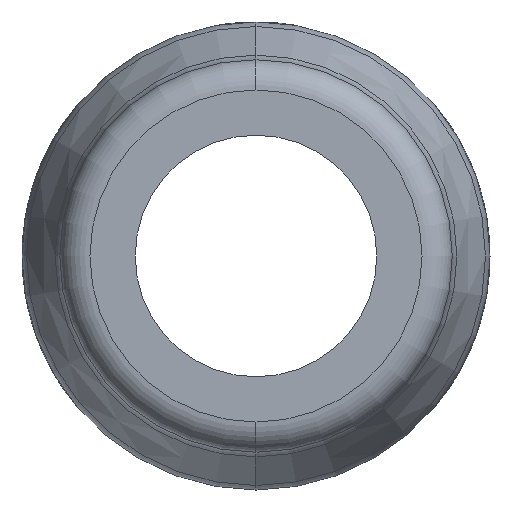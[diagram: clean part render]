
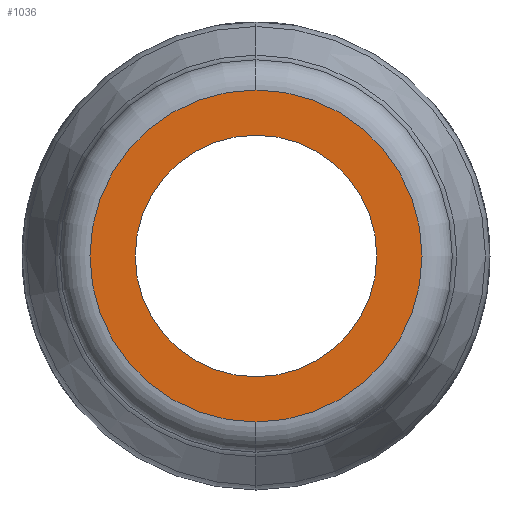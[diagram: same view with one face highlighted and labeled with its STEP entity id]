
A CAD part, left-side view. The second image highlights one B-rep face of the part: STEP entity #1036.
In plain terms, the highlighted planar face has unit normal (-1, 0, 0).
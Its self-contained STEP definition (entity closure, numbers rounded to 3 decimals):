
#57 = FACE_BOUND ( 'NONE', #1193, .T. ) ;
#62 = VERTEX_POINT ( 'NONE', #537 ) ;
#102 = FACE_OUTER_BOUND ( 'NONE', #300, .T. ) ;
#118 = DIRECTION ( 'NONE',  ( -1., 0., 0. ) ) ;
#234 = CIRCLE ( 'NONE', #505, 8. ) ;
#244 = DIRECTION ( 'NONE',  ( 0., 0., -1. ) ) ;
#300 = EDGE_LOOP ( 'NONE', ( #1315, #1438 ) ) ;
#397 = DIRECTION ( 'NONE',  ( -1., 0., 0. ) ) ;
#420 = DIRECTION ( 'NONE',  ( 1., 0., 0. ) ) ;
#474 = DIRECTION ( 'NONE',  ( 0., 0., -1. ) ) ;
#505 = AXIS2_PLACEMENT_3D ( 'NONE', #1228, #1236, #1239 ) ;
#509 = CARTESIAN_POINT ( 'NONE',  ( 0., 0., 0. ) ) ;
#535 = CARTESIAN_POINT ( 'NONE',  ( 0., 8., 0. ) ) ;
#537 = CARTESIAN_POINT ( 'NONE',  ( 0., 0., 8. ) ) ;
#694 = EDGE_CURVE ( 'NONE', #1111, #1430, #1210, .T. ) ;
#768 = CARTESIAN_POINT ( 'NONE',  ( 0., 0., -8. ) ) ;
#802 = CARTESIAN_POINT ( 'NONE',  ( 0., 0., 11. ) ) ;
#847 = AXIS2_PLACEMENT_3D ( 'NONE', #903, #911, #956 ) ;
#855 = EDGE_CURVE ( 'NONE', #62, #1693, #1687, .T. ) ;
#875 = PLANE ( 'NONE',  #1230 ) ;
#903 = CARTESIAN_POINT ( 'NONE',  ( 0., 0., 0. ) ) ;
#906 = AXIS2_PLACEMENT_3D ( 'NONE', #509, #118, #244 ) ;
#911 = DIRECTION ( 'NONE',  ( -1., 0., 0. ) ) ;
#956 = DIRECTION ( 'NONE',  ( 0., 0., -1. ) ) ;
#1036 = ADVANCED_FACE ( 'NONE', ( #102, #57 ), #875, .F. ) ;
#1111 = VERTEX_POINT ( 'NONE', #1321 ) ;
#1193 = EDGE_LOOP ( 'NONE', ( #1681, #1498 ) ) ;
#1210 = CIRCLE ( 'NONE', #847, 11. ) ;
#1225 = CIRCLE ( 'NONE', #906, 11. ) ;
#1228 = CARTESIAN_POINT ( 'NONE',  ( 0., 0., 0. ) ) ;
#1230 = AXIS2_PLACEMENT_3D ( 'NONE', #535, #420, #474 ) ;
#1236 = DIRECTION ( 'NONE',  ( -1., 0., 0. ) ) ;
#1239 = DIRECTION ( 'NONE',  ( 0., 0., 1. ) ) ;
#1242 = CARTESIAN_POINT ( 'NONE',  ( 0., 0., 0. ) ) ;
#1315 = ORIENTED_EDGE ( 'NONE', *, *, #694, .T. ) ;
#1321 = CARTESIAN_POINT ( 'NONE',  ( 0., 0., -11. ) ) ;
#1345 = AXIS2_PLACEMENT_3D ( 'NONE', #1242, #397, #1761 ) ;
#1430 = VERTEX_POINT ( 'NONE', #802 ) ;
#1438 = ORIENTED_EDGE ( 'NONE', *, *, #1568, .T. ) ;
#1498 = ORIENTED_EDGE ( 'NONE', *, *, #1521, .F. ) ;
#1521 = EDGE_CURVE ( 'NONE', #1693, #62, #234, .T. ) ;
#1568 = EDGE_CURVE ( 'NONE', #1430, #1111, #1225, .T. ) ;
#1681 = ORIENTED_EDGE ( 'NONE', *, *, #855, .F. ) ;
#1687 = CIRCLE ( 'NONE', #1345, 8. ) ;
#1693 = VERTEX_POINT ( 'NONE', #768 ) ;
#1761 = DIRECTION ( 'NONE',  ( 0., 0., 1. ) ) ;
